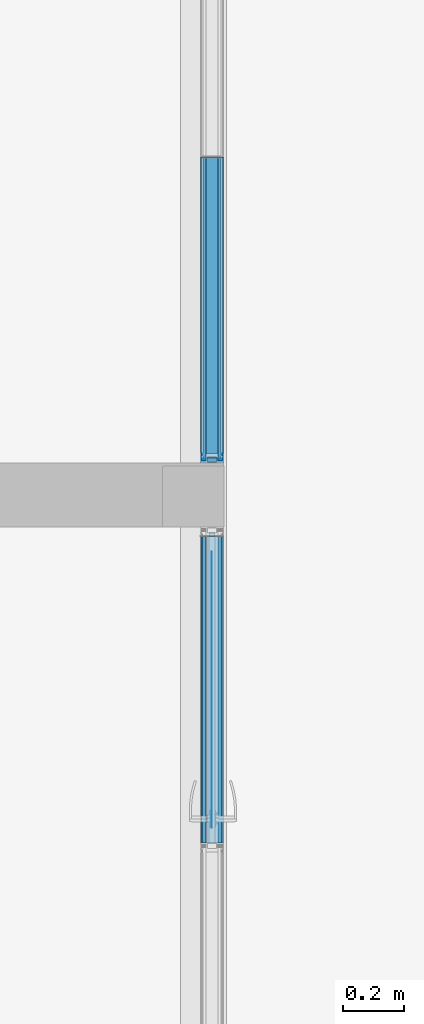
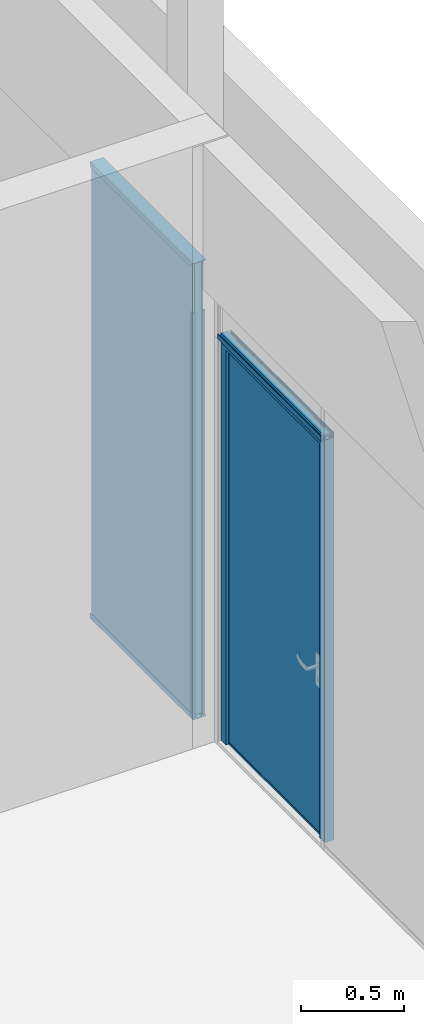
# One storey, part 32 of 65: 9 building element parts, 8 elements without a shape of their own.
"""IFC2X3 building model written with IfcOpenShell, lengths in millimetres."""

import ifcopenshell
import ifcopenshell.guid

model = None  # the IFC model being written
_history = None  # IfcOwnerHistory: only IFC2X3 demands one
_inside = {}  # id of a spatial element -> (the spatial element, [elements in it])
_under = {}  # id of a project, library or spatial element -> (it, [spatial elements below it])
_declared = {}  # id of a project -> (the project, [libraries it declares])
_typed = {}  # id of a type object -> (the type object, [elements of that type])
_made_of = {}  # id of a material, layer set ... -> (it, [elements and type objects made of it])


def new_model(schema):
    """Start an empty IFC model of exactly this schema.

    Asked for "IFC4X3", IfcOpenShell would pick the latest addendum, in which some entities
    have other attributes; the version numbers below select the first issue.
    IFC2X3 requires an IfcOwnerHistory on every rooted entity: one is made here for all.
    """
    global model, _history
    if schema == "IFC4X3":
        model = ifcopenshell.file(schema_version=(4, 3, 0, 0))
    else:
        model = ifcopenshell.file(schema=schema)
    _inside.clear()
    _under.clear()
    _declared.clear()
    _typed.clear()
    _made_of.clear()
    _history = None
    if model.schema == "IFC2X3":
        org = make("IfcOrganization", Name="unknown")
        user = make(
            "IfcPersonAndOrganization",
            ThePerson=make("IfcPerson", FamilyName="unknown"),
            TheOrganization=org,
        )
        app = make(
            "IfcApplication",
            ApplicationDeveloper=org,
            Version="unknown",
            ApplicationFullName="unknown",
            ApplicationIdentifier="unknown",
        )
        _history = make(
            "IfcOwnerHistory",
            OwningUser=user,
            OwningApplication=app,
            ChangeAction="ADDED",
            CreationDate=0,
        )
    return model


def make(cls, **values):
    """One entity of the class cls with the attributes given. An attribute that is None is left unset."""
    return model.create_entity(
        cls, **{name: value for name, value in values.items() if value is not None}
    )


def entity(cls, *values):
    """Any entity or typed value of the class cls, its attributes in the order of the schema. None: left unset."""
    e = model.create_entity(cls)
    for i, value in enumerate(values):
        if value is not None:
            e[i] = value
    return e


def rooted(cls, **values):
    """An entity with a GlobalId (a new one), such as an element, a storey or a relation."""
    return make(cls, GlobalId=ifcopenshell.guid.new(), OwnerHistory=_history, **values)


def si_unit(unit_type, name, prefix=None):
    """IfcSIUnit, for example si_unit("LENGTHUNIT", "METRE", prefix="MILLI")."""
    return make("IfcSIUnit", UnitType=unit_type, Prefix=prefix, Name=name)


def converted_unit(unit_type, name, factor, base, dimensions=None, offset=None):
    """IfcConversionBasedUnit, such as the inch: factor (a typed value) times the base unit."""
    return make(
        "IfcConversionBasedUnit"
        if offset is None
        else "IfcConversionBasedUnitWithOffset",
        ConversionOffset=offset,
        Dimensions=None
        if dimensions is None
        else entity("IfcDimensionalExponents", *dimensions),
        UnitType=unit_type,
        Name=name,
        ConversionFactor=make(
            "IfcMeasureWithUnit", ValueComponent=factor, UnitComponent=base
        ),
    )


def derived_unit(unit_type, elements):
    """IfcDerivedUnit: a product of units, each with its exponent."""
    return make(
        "IfcDerivedUnit",
        Elements=[
            make("IfcDerivedUnitElement", Unit=unit, Exponent=power)
            for unit, power in elements
        ],
        UnitType=unit_type,
    )


def money_unit(currency):
    """IfcMonetaryUnit."""
    return make("IfcMonetaryUnit", Currency=currency)


def assignment(units):
    """IfcUnitAssignment: the units of a project."""
    return None if units is None else make("IfcUnitAssignment", Units=units)


def point(xyz):
    """IfcCartesianPoint."""
    return None if xyz is None else make("IfcCartesianPoint", Coordinates=xyz)


def direction(xyz):
    """IfcDirection."""
    return None if xyz is None else make("IfcDirection", DirectionRatios=xyz)


def frame(location, z_axis=None, x_axis=None):
    """IfcAxis2Placement3D, a coordinate frame: its origin and axes. An axis left out is left unset."""
    return make(
        "IfcAxis2Placement3D",
        Location=point(location),
        Axis=direction(z_axis),
        RefDirection=direction(x_axis),
    )


def origin_with_axes():
    """The frame at (0, 0, 0) with the z axis (0, 0, 1) and the x axis (1, 0, 0) written out."""
    return frame((0.0, 0.0, 0.0), z_axis=(0.0, 0.0, 1.0), x_axis=(1.0, 0.0, 0.0))


def place(relative_to, where):
    """IfcLocalPlacement: puts the frame where relative to a parent placement (None: the world)."""
    return make(
        "IfcLocalPlacement", PlacementRelTo=relative_to, RelativePlacement=where
    )


def context(
    kind, dimensions, precision=None, world=None, true_north=None, identifier=None
):
    """IfcGeometricRepresentationContext, for example the 3D "Model" context."""
    return make(
        "IfcGeometricRepresentationContext",
        ContextIdentifier=identifier,
        ContextType=kind,
        CoordinateSpaceDimension=dimensions,
        Precision=precision,
        WorldCoordinateSystem=world,
        TrueNorth=true_north,
    )


def subcontext(parent, identifier, kind, view, scale=None):
    """IfcGeometricRepresentationSubContext, for example "Body" below "Model"."""
    return make(
        "IfcGeometricRepresentationSubContext",
        ContextIdentifier=identifier,
        ContextType=kind,
        ParentContext=parent,
        TargetScale=scale,
        TargetView=view,
    )


def project(units=None, contexts=None):
    """IfcProject with its units and contexts."""
    return rooted(
        "IfcProject",
        Name="project",
        RepresentationContexts=contexts,
        UnitsInContext=assignment(units),
    )


def spatial(cls, under=None, at=None, **own):
    """A site, building, storey or space (cls), placed at a placement, below another one or the project."""
    s = rooted(cls, ObjectPlacement=at, **own)
    if under is not None:
        _under.setdefault(under.id(), (under, []))[1].append(s)
    return s


def faces_of(points, faces, orient=None, outer=None):
    """IfcFace entities. A face is a list of loops; a loop is a list of indices into points, from 0.

    orient and outer hold one flag for each loop. By default every Orientation is true, the
    first loop of a face is its IfcFaceOuterBound and the others are IfcFaceBound.
    """
    made = []
    for i, loops in enumerate(faces):
        bounds = []
        for j, loop in enumerate(loops):
            is_outer = j == 0 if outer is None else outer[i][j]
            bounds.append(
                make(
                    "IfcFaceOuterBound" if is_outer else "IfcFaceBound",
                    Bound=make("IfcPolyLoop", Polygon=[points[k] for k in loop]),
                    Orientation=True if orient is None else orient[i][j],
                )
            )
        made.append(make("IfcFace", Bounds=bounds))
    return made


def open_shell(faces, orient=None, outer=None):
    """The faces of one IfcOpenShell. surface_model builds it on its shared points."""
    return ("IfcOpenShell", faces, orient, outer)


def faceted_brep(points, faces, orient=None, outer=None, voids=None):
    """IfcFacetedBrep: a solid bounded by flat faces; with voids (closed shells), ...WithVoids."""
    shared = [point(p) for p in points]
    hull = make("IfcClosedShell", CfsFaces=faces_of(shared, faces, orient, outer))
    if voids is None:
        return make("IfcFacetedBrep", Outer=hull)
    return make(
        "IfcFacetedBrepWithVoids",
        Outer=hull,
        Voids=[
            make(cls, CfsFaces=faces_of(shared, fs, o, b)) for cls, fs, o, b in voids
        ],
    )


def surface_model(cls, points, shells):
    """IfcFaceBasedSurfaceModel or IfcShellBasedSurfaceModel (cls): surfaces that need not close."""
    shared = [point(p) for p in points]
    made = [make(c, CfsFaces=faces_of(shared, fs, o, b)) for c, fs, o, b in shells]
    if cls == "IfcFaceBasedSurfaceModel":
        return make(cls, FbsmFaces=made)
    return make(cls, SbsmBoundary=made)


def shape(context_of_items, identifier, shape_type, items):
    """IfcShapeRepresentation: the items that make up one representation, for example the "Body"."""
    return make(
        "IfcShapeRepresentation",
        ContextOfItems=context_of_items,
        RepresentationIdentifier=identifier,
        RepresentationType=shape_type,
        Items=items,
    )


def material(Name=None, Category=None):
    """IfcMaterial."""
    return make("IfcMaterial", Name=Name, Category=Category)


def made_of(thing, what):
    """Note that an element or type object is made of a material, layer set ...; save() writes the relation."""
    if what is not None:
        _made_of.setdefault(what.id(), (what, []))[1].append(thing)
    return thing


def type_object(cls, material=None, **own):
    """A type object (cls), such as IfcWallType, which elements share."""
    return made_of(rooted(cls, **own), material)


def element(
    cls,
    number,
    at=None,
    inside=None,
    cuts=None,
    type_object=None,
    material=None,
    context=None,
    identifier="Body",
    shape_type=None,
    held_by="IfcProductDefinitionShape",
    body=None,
    shapes=None,
    **own,
):
    """One element of the class cls, such as IfcWall. Its Tag is "e" and its number.

    at: its placement. inside: the storey or other place that contains it. cuts: it is an
    opening in that element (IfcRelVoidsElement). A single representation is given by context,
    identifier, shape_type and body (its items); several are given by shapes. held_by: the class
    of the entity that holds the representations. save() writes the other relations.
    """
    e = rooted(cls, Tag="e%d" % number, ObjectPlacement=at, **own)
    if body is not None:
        shapes = [shape(context, identifier, shape_type, body)]
    if shapes is not None:
        e.Representation = make(held_by, Representations=shapes)
    if inside is not None:
        _inside.setdefault(inside.id(), (inside, []))[1].append(e)
    if cuts is not None:
        rooted(
            "IfcRelVoidsElement", RelatingBuildingElement=cuts, RelatedOpeningElement=e
        )
    if type_object is not None:
        _typed.setdefault(type_object.id(), (type_object, []))[1].append(e)
    return made_of(e, material)


def aggregate(whole, parts):
    """IfcRelAggregates: a whole, such as a stair, and the parts it consists of."""
    return rooted("IfcRelAggregates", RelatingObject=whole, RelatedObjects=parts)


def save(model, path):
    """Write the relations noted so far, then the file.

    IfcRelAggregates (storeys below a building ...), IfcRelContainedInSpatialStructure (elements
    in a storey), IfcRelDefinesByType, IfcRelAssociatesMaterial and IfcRelDeclares: one each for
    every whole, place, type object, material and project.
    """
    for whole, parts in _under.values():
        aggregate(whole, parts)
    for where, things in _inside.values():
        rooted(
            "IfcRelContainedInSpatialStructure",
            RelatedElements=things,
            RelatingStructure=where,
        )
    for kind, things in _typed.values():
        rooted("IfcRelDefinesByType", RelatedObjects=things, RelatingType=kind)
    for what, things in _made_of.values():
        rooted("IfcRelAssociatesMaterial", RelatedObjects=things, RelatingMaterial=what)
    for by, libraries in _declared.values():
        rooted("IfcRelDeclares", RelatingContext=by, RelatedDefinitions=libraries)
    model.write(path)


model = new_model("IFC2X3")

# Units and contexts
model_context = context("Model", 3, precision=0.01, world=origin_with_axes(), true_north=direction((0.0, 1.0)))
body_context = subcontext(model_context, "Body", "Model", "MODEL_VIEW")
ifc_project = project(units=[si_unit("LENGTHUNIT", "METRE", prefix="MILLI"), si_unit("AREAUNIT", "SQUARE_METRE"), si_unit("VOLUMEUNIT", "CUBIC_METRE"), converted_unit("PLANEANGLEUNIT", "DEGREE", entity("IfcPlaneAngleMeasure", 0.0174532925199), si_unit("PLANEANGLEUNIT", "RADIAN"), dimensions=[0, 0, 0, 0, 0, 0, 0]), si_unit("SOLIDANGLEUNIT", "STERADIAN"), money_unit("EUR"), converted_unit("TIMEUNIT", "Year", entity("IfcTimeMeasure", 31556926.0), si_unit("TIMEUNIT", "SECOND"), dimensions=[0, 0, 1, 0, 0, 0, 0]), si_unit("MASSUNIT", "GRAM", prefix="KILO"), si_unit("THERMODYNAMICTEMPERATUREUNIT", "DEGREE_CELSIUS"), si_unit("LUMINOUSINTENSITYUNIT", "LUMEN"), si_unit("ENERGYUNIT", "JOULE", prefix="MEGA"), derived_unit("THERMALCONDUCTANCEUNIT", [(si_unit("POWERUNIT", "WATT"), 1), (si_unit("LENGTHUNIT", "METRE"), -1), (si_unit("THERMODYNAMICTEMPERATUREUNIT", "KELVIN"), -1)]), derived_unit("SPECIFICHEATCAPACITYUNIT", [(si_unit("ENERGYUNIT", "JOULE"), 1), (si_unit("MASSUNIT", "GRAM", prefix="KILO"), -1), (si_unit("THERMODYNAMICTEMPERATUREUNIT", "KELVIN"), -1)]), derived_unit("MASSDENSITYUNIT", [(si_unit("MASSUNIT", "GRAM", prefix="KILO"), 1), (si_unit("VOLUMEUNIT", "CUBIC_METRE"), -1)])], contexts=[model_context])

# Site, building, storey
site_placement = place(None, origin_with_axes())
site = spatial("IfcSite", under=ifc_project, at=site_placement, Name="Puškini 31, Narva", CompositionType="ELEMENT")
building_placement = place(site_placement, origin_with_axes())
building = spatial("IfcBuilding", under=site, at=building_placement, Name="Narva Riigigümnaasium", CompositionType="ELEMENT")
storey_placement = place(building_placement, frame((0.0, 0.0, -1320.0), z_axis=(0.0, 0.0, 1.0), x_axis=(1.0, 0.0, 0.0)))
storey = spatial("IfcBuildingStorey", under=building, at=storey_placement, Name="1.korrus -1.32", CompositionType="ELEMENT", Elevation=-1320.0)

# Curtain wall, plate, building element parts, members
curtain_wall_type = type_object("IfcCurtainWallType", Name="Curtain Wall Type", PredefinedType="NOTDEFINED")
curtain_wall_1_placement = place(storey_placement, frame((30362.9999988, 168706.249936, -1.99739158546e-06), z_axis=(0.0, 0.0, 1.0), x_axis=(1.0, 0.0, 0.0)))
curtain_wall_1 = element("IfcCurtainWall", 1, at=curtain_wall_1_placement, inside=storey, type_object=curtain_wall_type, Name="G-SKLF-05")
plate_type = type_object("IfcPlateType", Name="Siseklaasfassaad - Klaas 981 x 285 x 10", PredefinedType="CURTAIN_PANEL")
plate_placement = place(curtain_wall_1_placement, frame((0.0, -997.5, 1700.00003085), z_axis=(0.0, 0.0, 1.0), x_axis=(0.0, -1.0, 0.0)))
plate = element("IfcPlate", 2, at=plate_placement, type_object=plate_type, Name="G-SKLF-05-klaas", ObjectType="CURTAIN_PANEL")
ifc_material_1 = material(Name="VKR-05_Klaas")
building_element_part_1_placement = place(plate_placement, origin_with_axes())
building_element_part_1 = element("IfcBuildingElementPart", 3, at=building_element_part_1_placement, material=ifc_material_1, Name="VKR-05_Klaas", context=body_context, shape_type="Brep", body=[
    faceted_brep([(-497.250006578, 29.0, 985.000045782), (-497.250006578, 20.0, 985.000045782), (483.749986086, 20.0, 985.000045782), (483.749986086, 29.0, 985.000045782), (-497.250006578, 29.0, -1685.00001693), (-497.250006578, 20.0, -1685.00001693), (483.749986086, 20.0, -1685.00001693), (483.749986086, 29.0, -1685.00001693)], [[[0, 1, 2, 3]], [[4, 5, 1, 0]], [[1, 5, 6, 2]], [[3, 2, 6, 7]], [[0, 3, 7, 4]], [[7, 6, 5, 4]]]),
    faceted_brep([(-497.250006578, -20.0, 985.000045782), (-497.250006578, -29.0, 985.000045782), (483.749986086, -29.0, 985.000045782), (483.749986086, -20.0, 985.000045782), (-497.250006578, -20.0, -1685.00001693), (-497.250006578, -29.0, -1685.00001693), (483.749986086, -29.0, -1685.00001693), (483.749986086, -20.0, -1685.00001693)], [[[0, 1, 2, 3]], [[4, 5, 1, 0]], [[1, 5, 6, 2]], [[3, 2, 6, 7]], [[0, 3, 7, 4]], [[7, 6, 5, 4]]]),
])
ifc_material_2 = material(Name="VKR-06_Õhkvahe")
building_element_part_2_placement = place(plate_placement, origin_with_axes())
building_element_part_2 = element("IfcBuildingElementPart", 4, at=building_element_part_2_placement, material=ifc_material_2, Name="VKR-06_Õhkvahe", context=body_context, shape_type="Brep", body=[
    faceted_brep([(-497.250006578, 20.0, 985.000045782), (-497.250006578, -20.0, 985.000045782), (483.749986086, -20.0, 985.000045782), (483.749986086, 20.0, 985.000045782), (-497.250006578, 20.0, -1685.00001693), (-497.250006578, -20.0, -1685.00001693), (483.749986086, -20.0, -1685.00001693), (483.749986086, 20.0, -1685.00001693)], [[[0, 1, 2, 3]], [[4, 5, 1, 0]], [[1, 5, 6, 2]], [[3, 2, 6, 7]], [[0, 3, 7, 4]], [[7, 6, 5, 4]]]),
])
aggregate(plate, [building_element_part_1, building_element_part_2])
member_type = type_object("IfcMemberType", Name="Boundary Frame 30 x 37", PredefinedType="MULLION")
member_1_placement = place(curtain_wall_1_placement, frame((0.0, -1496.25, 2700.00009054), z_axis=(0.0, 1.0, 0.0), x_axis=(0.0, 0.0, 1.0)))
member_1 = element("IfcMember", 5, at=member_1_placement, type_object=member_type, Name="G-SKLF-14-raam", ObjectType="MULLION")
ifc_material_3 = material(Name="Teras RAL7012")
building_element_part_3_placement = place(member_1_placement, origin_with_axes())
building_element_part_3 = element("IfcBuildingElementPart", 6, at=building_element_part_3_placement, material=ifc_material_3, Name="Teras RAL7012", context=body_context, shape_type="Brep", body=[
    faceted_brep([(-29.5999996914, 17.0000000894, 29.5999996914), (-29.5999996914, 17.0000000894, 996.019987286), (0.0, 17.0000000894, 997.5), (0.0, 17.0000000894, 0.0), (-29.5999996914, -17.0000000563, 29.5999996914), (-29.5999996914, -17.0000000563, 996.019987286), (0.0, -17.0000000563, 997.5), (-1.9999999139, -15.0000001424, 997.399999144), (-18.7999996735, -15.0000001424, 996.559991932), (-18.7999996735, 15.0000001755, 996.559991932), (-1.9999999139, 15.0000001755, 997.399999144), (0.0, -17.0000000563, 0.0), (-1.9999999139, -15.0000001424, 1.99999991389), (-1.9999999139, 15.0000001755, 1.99999991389), (-18.7999996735, 15.0000001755, 18.7999996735), (-18.7999996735, -15.0000001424, 18.7999996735)], [[[0, 1, 2, 3]], [[4, 5, 1, 0]], [[2, 1, 5, 6], [7, 8, 9, 10]], [[3, 2, 6, 11]], [[3, 11, 4, 0], [12, 13, 14, 15]], [[11, 6, 5, 4]], [[15, 8, 7, 12]], [[14, 9, 8, 15]], [[13, 10, 9, 14]], [[12, 7, 10, 13]]]),
    faceted_brep([(-29.5999996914, -17.0000000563, 29.5999996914), (-29.5999996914, -17.0000000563, 996.019987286), (0.0, -17.0, 997.5), (0.0, -17.0, 0.0), (-30.0000193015, -17.0, 30.0000193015), (-30.0000193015, -17.0, 995.999986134), (-30.0000193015, -20.0, 995.999986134), (-13.8499999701, -20.000000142, 996.807494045), (-7.49999999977, -20.0, 997.124996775), (-7.49999999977, -34.0161444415, 997.124996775), (-13.8499999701, -34.0161444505, 996.807494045), (-24.987414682, -34.0161444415, 996.25061852), (-28.5126239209, -34.0161444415, 996.074356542), (-30.0000193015, -34.0161444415, 995.999986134), (-30.0000193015, -37.0, 995.999986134), (0.0, -37.0, 997.5), (0.0, -37.0, 0.0), (-30.0000193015, -37.0, 30.0000193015), (-30.0000193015, -34.0161444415, 30.0000193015), (-28.5126239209, -34.0161444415, 28.5126239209), (-24.987414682, -34.0161444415, 24.987414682), (-13.8499999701, -34.0161444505, 13.8499999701), (-7.49999999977, -34.0161444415, 7.49999999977), (-7.49999999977, -20.0, 7.49999999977), (-13.8499999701, -20.000000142, 13.8499999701), (-30.0000193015, -20.0, 30.0000193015)], [[[0, 1, 2, 3]], [[4, 5, 1, 0]], [[2, 1, 5, 6, 7, 8, 9, 10, 11, 12, 13, 14, 15]], [[3, 2, 15, 16]], [[3, 16, 17, 18, 19, 20, 21, 22, 23, 24, 25, 4, 0]], [[25, 6, 5, 4]], [[24, 7, 6, 25]], [[23, 8, 7, 24]], [[22, 9, 8, 23]], [[21, 10, 9, 22]], [[20, 11, 10, 21]], [[19, 12, 11, 20]], [[18, 13, 12, 19]], [[17, 14, 13, 18]], [[16, 15, 14, 17]]]),
    faceted_brep([(0.0, 37.0, 0.0), (0.0, 37.0, 997.5), (0.0, 17.0, 997.5), (0.0, 17.0, 0.0), (-30.0000193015, 37.0, 30.0000193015), (-30.0000193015, 37.0, 995.999986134), (-30.0000193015, 34.0161444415, 995.999986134), (-28.5126239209, 34.0161444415, 996.074356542), (-24.987414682, 34.0161444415, 996.25061852), (-13.8499999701, 34.0161445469, 996.807494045), (-7.49999999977, 34.0161444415, 997.124996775), (-7.49999999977, 20.0, 997.124996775), (-13.8499999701, 19.9999997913, 996.807494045), (-30.0000193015, 20.0, 995.999986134), (-30.0000193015, 17.0, 995.999986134), (-29.5999996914, 17.0000000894, 996.019987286), (-29.5999996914, 17.0000000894, 29.5999996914), (-30.0000193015, 17.0, 30.0000193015), (-30.0000193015, 20.0, 30.0000193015), (-13.8499999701, 19.9999997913, 13.8499999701), (-7.49999999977, 20.0, 7.49999999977), (-7.49999999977, 34.0161444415, 7.49999999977), (-13.8499999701, 34.0161445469, 13.8499999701), (-24.987414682, 34.0161444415, 24.987414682), (-28.5126239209, 34.0161444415, 28.5126239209), (-30.0000193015, 34.0161444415, 30.0000193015)], [[[0, 1, 2, 3]], [[4, 5, 1, 0]], [[2, 1, 5, 6, 7, 8, 9, 10, 11, 12, 13, 14, 15]], [[3, 2, 15, 16]], [[3, 16, 17, 18, 19, 20, 21, 22, 23, 24, 25, 4, 0]], [[25, 6, 5, 4]], [[24, 7, 6, 25]], [[23, 8, 7, 24]], [[22, 9, 8, 23]], [[21, 10, 9, 22]], [[20, 11, 10, 21]], [[19, 12, 11, 20]], [[18, 13, 12, 19]], [[17, 14, 13, 18]], [[16, 15, 14, 17]]]),
])
aggregate(member_1, [building_element_part_3])
member_2_placement = place(curtain_wall_1_placement, frame((0.0, -1496.25, 0.0), z_axis=(0.0, 1.0, 0.0), x_axis=(0.0, 0.0, 1.0)))
member_2 = element("IfcMember", 7, at=member_2_placement, type_object=member_type, Name="G-SKLF-05-raam", ObjectType="MULLION")
building_element_part_4_placement = place(member_2_placement, origin_with_axes())
building_element_part_4 = element("IfcBuildingElementPart", 8, at=building_element_part_4_placement, material=ifc_material_3, Name="Teras RAL7012", context=body_context, shape_type="Brep", body=[
    faceted_brep([(29.5999996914, 17.0000000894, 29.5999996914), (0.0, 17.0000000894, 0.0), (0.0, 17.0000000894, 997.5), (29.5999996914, 17.0000000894, 996.019987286), (29.5999996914, -17.0000000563, 29.5999996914), (0.0, -17.0000000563, 0.0), (1.9999999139, -15.0000001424, 1.99999991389), (18.7999996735, -15.0000001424, 18.7999996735), (18.7999996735, 15.0000001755, 18.7999996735), (1.9999999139, 15.0000001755, 1.99999991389), (0.0, -17.0000000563, 997.5), (29.5999996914, -17.0000000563, 996.019987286), (1.9999999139, -15.0000001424, 997.399999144), (1.9999999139, 15.0000001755, 997.399999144), (18.7999996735, 15.0000001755, 996.559991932), (18.7999996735, -15.0000001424, 996.559991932)], [[[0, 1, 2, 3]], [[1, 0, 4, 5], [6, 7, 8, 9]], [[1, 5, 10, 2]], [[2, 10, 11, 3], [12, 13, 14, 15]], [[4, 0, 3, 11]], [[5, 4, 11, 10]], [[7, 6, 12, 15]], [[8, 7, 15, 14]], [[9, 8, 14, 13]], [[6, 9, 13, 12]]]),
    faceted_brep([(29.5999996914, -17.0000000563, 29.5999996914), (0.0, -17.0, 0.0), (0.0, -17.0, 997.5), (29.5999996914, -17.0000000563, 996.019987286), (30.0000193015, -17.0, 30.0000193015), (30.0000193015, -20.0, 30.0000193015), (13.8499999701, -20.000000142, 13.8499999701), (7.49999999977, -20.0, 7.49999999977), (7.49999999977, -34.0161444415, 7.49999999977), (13.8499999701, -34.0161444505, 13.8499999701), (24.987414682, -34.0161444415, 24.987414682), (28.5126239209, -34.0161444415, 28.5126239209), (30.0000193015, -34.0161444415, 30.0000193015), (30.0000193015, -37.0, 30.0000193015), (0.0, -37.0, 0.0), (0.0, -37.0, 997.5), (30.0000193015, -37.0, 995.999986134), (30.0000193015, -34.0161444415, 995.999986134), (28.5126239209, -34.0161444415, 996.074356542), (24.987414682, -34.0161444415, 996.25061852), (13.8499999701, -34.0161444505, 996.807494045), (7.49999999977, -34.0161444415, 997.124996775), (7.49999999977, -20.0, 997.124996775), (13.8499999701, -20.000000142, 996.807494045), (30.0000193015, -20.0, 995.999986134), (30.0000193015, -17.0, 995.999986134)], [[[0, 1, 2, 3]], [[1, 0, 4, 5, 6, 7, 8, 9, 10, 11, 12, 13, 14]], [[1, 14, 15, 2]], [[2, 15, 16, 17, 18, 19, 20, 21, 22, 23, 24, 25, 3]], [[4, 0, 3, 25]], [[5, 4, 25, 24]], [[6, 5, 24, 23]], [[7, 6, 23, 22]], [[8, 7, 22, 21]], [[9, 8, 21, 20]], [[10, 9, 20, 19]], [[11, 10, 19, 18]], [[12, 11, 18, 17]], [[13, 12, 17, 16]], [[14, 13, 16, 15]]]),
    faceted_brep([(0.0, 37.0, 0.0), (0.0, 17.0, 0.0), (0.0, 17.0, 997.5), (0.0, 37.0, 997.5), (30.0000193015, 37.0, 30.0000193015), (30.0000193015, 34.0161444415, 30.0000193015), (28.5126239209, 34.0161444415, 28.5126239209), (24.987414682, 34.0161444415, 24.987414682), (13.8499999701, 34.0161445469, 13.8499999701), (7.49999999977, 34.0161444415, 7.49999999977), (7.49999999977, 20.0, 7.49999999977), (13.8499999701, 19.9999997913, 13.8499999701), (30.0000193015, 20.0, 30.0000193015), (30.0000193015, 17.0, 30.0000193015), (29.5999996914, 17.0000000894, 29.5999996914), (29.5999996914, 17.0000000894, 996.019987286), (30.0000193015, 17.0, 995.999986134), (30.0000193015, 20.0, 995.999986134), (13.8499999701, 19.9999997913, 996.807494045), (7.49999999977, 20.0, 997.124996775), (7.49999999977, 34.0161444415, 997.124996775), (13.8499999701, 34.0161445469, 996.807494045), (24.987414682, 34.0161444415, 996.25061852), (28.5126239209, 34.0161444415, 996.074356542), (30.0000193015, 34.0161444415, 995.999986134), (30.0000193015, 37.0, 995.999986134)], [[[0, 1, 2, 3]], [[1, 0, 4, 5, 6, 7, 8, 9, 10, 11, 12, 13, 14]], [[1, 14, 15, 2]], [[2, 15, 16, 17, 18, 19, 20, 21, 22, 23, 24, 25, 3]], [[4, 0, 3, 25]], [[5, 4, 25, 24]], [[6, 5, 24, 23]], [[7, 6, 23, 22]], [[8, 7, 22, 21]], [[9, 8, 21, 20]], [[10, 9, 20, 19]], [[11, 10, 19, 18]], [[12, 11, 18, 17]], [[13, 12, 17, 16]], [[14, 13, 16, 15]]]),
])
aggregate(member_2, [building_element_part_4])
member_3_placement = place(curtain_wall_1_placement, frame((0.0, -1496.25, 0.0), z_axis=(0.0, 0.0, 1.0), x_axis=(0.0, -1.0, 0.0)))
member_3 = element("IfcMember", 9, at=member_3_placement, type_object=member_type, Name="G-SKLF-16-raam", ObjectType="MULLION")
aggregate(curtain_wall_1, [member_1, member_2, member_3, plate])
ifc_material_4 = material(Name="Klaasvill")
building_element_part_5_placement = place(member_3_placement, origin_with_axes())
building_element_part_5 = element("IfcBuildingElementPart", 10, at=building_element_part_5_placement, material=ifc_material_4, Name="Klaasvill", context=body_context, shape_type="Brep", body=[
    faceted_brep([(-13.8499999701, -20.000000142, 13.8499999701), (-13.8499999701, -20.000000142, 2400.000002), (-7.49999990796, -20.000000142, 2400.000002), (-7.49999990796, -20.000000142, 7.49999990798), (-13.8499999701, -34.0161444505, 13.8499999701), (-13.8499999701, -34.0161444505, 2400.000002), (-7.49999990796, -34.0161444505, 2400.000002), (-7.49999990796, -34.0161444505, 7.49999990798)], [[[0, 1, 2, 3]], [[4, 5, 1, 0]], [[2, 1, 5, 6]], [[3, 2, 6, 7]], [[3, 7, 4, 0]], [[7, 6, 5, 4]]]),
    faceted_brep([(-25.004489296, -32.0307503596, 25.004489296), (-25.004489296, -32.0307503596, 2400.000002), (-24.987414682, -34.0161444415, 2400.000002), (-24.987414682, -34.0161444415, 24.987414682), (-25.742237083, -31.2930025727, 25.742237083), (-25.742237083, -31.2930025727, 2400.000002), (-26.7500193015, -31.0229681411, 2400.000002), (-27.75780152, -31.2930025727, 2400.000002), (-28.4955493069, -32.0307503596, 2400.000002), (-28.7655837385, -33.0385325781, 2400.000002), (-28.5126239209, -34.0161444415, 2400.000002), (-28.5126239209, -34.0161444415, 28.5126239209), (-28.7655837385, -33.0385325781, 28.7655837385), (-28.4955493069, -32.0307503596, 28.4955493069), (-27.75780152, -31.2930025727, 27.75780152), (-26.7500193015, -31.0229681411, 26.7500193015)], [[[0, 1, 2, 3]], [[4, 5, 1, 0]], [[2, 1, 5, 6, 7, 8, 9, 10]], [[3, 2, 10, 11]], [[3, 11, 12, 13, 14, 15, 4, 0]], [[15, 6, 5, 4]], [[14, 7, 6, 15]], [[13, 8, 7, 14]], [[12, 9, 8, 13]], [[11, 10, 9, 12]]]),
    faceted_brep([(-7.49999990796, 34.0161445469, 7.49999990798), (-7.49999990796, 34.0161445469, 2400.000002), (-7.49999990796, 19.9999997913, 2400.000002), (-7.49999990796, 19.9999997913, 7.49999990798), (-13.8499999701, 34.0161445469, 13.8499999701), (-13.8499999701, 34.0161445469, 2400.000002), (-13.8499999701, 19.9999997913, 2400.000002), (-13.8499999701, 19.9999997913, 13.8499999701)], [[[0, 1, 2, 3]], [[4, 5, 1, 0]], [[2, 1, 5, 6]], [[3, 2, 6, 7]], [[3, 7, 4, 0]], [[7, 6, 5, 4]]]),
    faceted_brep([(-24.987414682, 34.0161444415, 24.987414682), (-24.987414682, 34.0161444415, 2400.000002), (-25.004489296, 32.0307503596, 2400.000002), (-25.004489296, 32.0307503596, 25.004489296), (-28.5126239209, 34.0161444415, 28.5126239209), (-28.5126239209, 34.0161444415, 2400.000002), (-28.7655837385, 33.0385325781, 2400.000002), (-28.4955493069, 32.0307503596, 2400.000002), (-27.75780152, 31.2930025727, 2400.000002), (-26.7500193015, 31.0229681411, 2400.000002), (-25.742237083, 31.2930025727, 2400.000002), (-25.742237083, 31.2930025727, 25.742237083), (-26.7500193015, 31.0229681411, 26.7500193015), (-27.75780152, 31.2930025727, 27.75780152), (-28.4955493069, 32.0307503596, 28.4955493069), (-28.7655837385, 33.0385325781, 28.7655837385)], [[[0, 1, 2, 3]], [[4, 5, 1, 0]], [[2, 1, 5, 6, 7, 8, 9, 10]], [[3, 2, 10, 11]], [[3, 11, 12, 13, 14, 15, 4, 0]], [[15, 6, 5, 4]], [[14, 7, 6, 15]], [[13, 8, 7, 14]], [[12, 9, 8, 13]], [[11, 10, 9, 12]]]),
])
aggregate(member_3, [building_element_part_5])

# Curtain wall, door, building element parts, proxy
curtain_wall_2_placement = place(storey_placement, frame((30362.9999988, 164066.428557, -5.96047033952e-06), z_axis=(0.0, 0.0, 1.0), x_axis=(1.0, 0.0, 0.0)))
curtain_wall_2 = element("IfcCurtainWall", 11, at=curtain_wall_2_placement, inside=storey, type_object=curtain_wall_type, Name="G-SKLF-04")
door_style = type_object("IfcDoorStyle", Name="985 x 2365 x 20", ConstructionType="NOTDEFINED", OperationType="NOTDEFINED", ParameterTakesPrecedence=False, Sizeable=False)
door_placement = place(curtain_wall_2_placement, frame((0.0, 2580.10476415, 1200.00000298), z_axis=(0.0, 0.0, 1.0), x_axis=(0.0, -1.0, 0.0)))
door = element("IfcDoor", 12, at=door_placement, type_object=door_style, Name="G-SKLF-04-U1", ObjectType="DOOR")
ifc_material_5 = material(Name="Teras - Roostevaba")
building_element_part_6_placement = place(door_placement, origin_with_axes())
building_element_part_6 = element("IfcBuildingElementPart", 13, at=building_element_part_6_placement, material=ifc_material_5, Name="Teras - Roostevaba", context=body_context, shape_type="Brep", body=[
    faceted_brep([(-323.466630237, -17.0, -1180.00000293), (-323.466630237, -17.0, 1200.00000298), (-323.466630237, -3.0, 1200.00000298), (-323.466630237, -3.0, -1180.00000293), (-277.466630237, -17.0, -1180.00000293), (-277.466630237, -17.0, 1154.00000298), (-277.466630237, -3.0, 1154.00000298), (-277.466630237, -3.0, -1180.00000293)], [[[0, 1, 2, 3]], [[0, 4, 5, 1]], [[1, 5, 6, 2]], [[3, 2, 6, 7]], [[4, 0, 3, 7]], [[5, 4, 7, 6]]]),
    faceted_brep([(676.733322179, -17.0, 1200.00000298), (630.733322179, -17.0, 1154.00000298), (630.733322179, -3.0, 1154.00000298), (676.733322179, -3.0, 1200.00000298), (-323.466630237, -17.0, 1200.00000298), (-277.466630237, -17.0, 1154.00000298), (-277.466630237, -3.0, 1154.00000298), (-323.466630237, -3.0, 1200.00000298)], [[[0, 1, 2, 3]], [[0, 4, 5, 1]], [[1, 5, 6, 2]], [[3, 2, 6, 7]], [[4, 0, 3, 7]], [[5, 4, 7, 6]]]),
    faceted_brep([(676.733322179, -17.0, -1180.00000293), (630.733322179, -17.0, -1180.00000293), (630.733322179, -3.0, -1180.00000293), (676.733322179, -3.0, -1180.00000293), (676.733322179, -17.0, 1200.00000298), (630.733322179, -17.0, 1154.00000298), (630.733322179, -3.0, 1154.00000298), (676.733322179, -3.0, 1200.00000298)], [[[0, 1, 2, 3]], [[0, 4, 5, 1]], [[1, 5, 6, 2]], [[3, 2, 6, 7]], [[4, 0, 3, 7]], [[5, 4, 7, 6]]]),
    faceted_brep([(-323.466630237, -3.0, -1180.00000293), (-323.466630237, -3.0, 1200.00000298), (-323.466630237, 37.0, 1200.00000298), (-323.466630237, 37.0, -1180.00000293), (-285.466630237, -3.0, -1180.00000293), (-285.466630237, -3.0, 1162.00000298), (-285.466630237, 37.0, 1162.00000298), (-285.466630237, 37.0, -1180.00000293)], [[[0, 1, 2, 3]], [[0, 4, 5, 1]], [[1, 5, 6, 2]], [[3, 2, 6, 7]], [[4, 0, 3, 7]], [[5, 4, 7, 6]]]),
    faceted_brep([(676.733322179, -3.0, 1200.00000298), (638.733322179, -3.0, 1162.00000298), (638.733322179, 37.0, 1162.00000298), (676.733322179, 37.0, 1200.00000298), (-323.466630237, -3.0, 1200.00000298), (-285.466630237, -3.0, 1162.00000298), (-285.466630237, 37.0, 1162.00000298), (-323.466630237, 37.0, 1200.00000298)], [[[0, 1, 2, 3]], [[0, 4, 5, 1]], [[1, 5, 6, 2]], [[3, 2, 6, 7]], [[4, 0, 3, 7]], [[5, 4, 7, 6]]]),
    faceted_brep([(676.733322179, -3.0, -1180.00000293), (638.733322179, -3.0, -1180.00000293), (638.733322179, 37.0, -1180.00000293), (676.733322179, 37.0, -1180.00000293), (676.733322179, -3.0, 1200.00000298), (638.733322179, -3.0, 1162.00000298), (638.733322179, 37.0, 1162.00000298), (676.733322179, 37.0, 1200.00000298)], [[[0, 1, 2, 3]], [[0, 4, 5, 1]], [[1, 5, 6, 2]], [[3, 2, 6, 7]], [[4, 0, 3, 7]], [[5, 4, 7, 6]]]),
    faceted_brep([(-338.466630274, -10.0, -1180.00000293), (-338.466630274, -10.0, 1185.00000294), (-338.466630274, 10.0, 1185.00000294), (-338.466630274, 10.0, -1180.00000293), (-323.466630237, -10.0, -1180.00000293), (-323.466630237, -10.0, 1200.00000298), (-323.466630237, 10.0, 1200.00000298), (-323.466630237, 10.0, -1180.00000293)], [[[0, 1, 2, 3]], [[0, 4, 5, 1]], [[1, 5, 6, 2]], [[3, 2, 6, 7]], [[4, 0, 3, 7]], [[5, 4, 7, 6]]]),
    faceted_brep([(-323.466630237, -10.0, 1200.00000298), (676.733322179, -10.0, 1200.00000298), (676.733322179, 10.0, 1200.00000298), (-323.466630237, 10.0, 1200.00000298), (-338.466630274, -10.0, 1185.00000294), (661.733322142, -10.0, 1185.00000294), (661.733322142, 10.0, 1185.00000294), (-338.466630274, 10.0, 1185.00000294)], [[[0, 1, 2, 3]], [[0, 4, 5, 1]], [[1, 5, 6, 2]], [[3, 2, 6, 7]], [[4, 0, 3, 7]], [[5, 4, 7, 6]]]),
    faceted_brep([(676.733322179, -10.0, 1200.00000298), (676.733322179, -10.0, -1180.00000293), (676.733322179, 10.0, -1180.00000293), (676.733322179, 10.0, 1200.00000298), (661.733322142, -10.0, 1185.00000294), (661.733322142, -10.0, -1180.00000293), (661.733322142, 10.0, -1180.00000293), (661.733322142, 10.0, 1185.00000294)], [[[0, 1, 2, 3]], [[0, 4, 5, 1]], [[1, 5, 6, 2]], [[3, 2, 6, 7]], [[4, 0, 3, 7]], [[5, 4, 7, 6]]]),
    faceted_brep([(626.733322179, -3.0, -1168.00000293), (626.733322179, -3.0, 1150.00000298), (626.733322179, 9.0, 1150.00000298), (626.733322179, 9.0, -1168.00000293), (638.733322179, -3.0, -1180.00000293), (638.733322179, -3.0, 1162.00000298), (638.733322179, 9.0, 1162.00000298), (638.733322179, 9.0, -1180.00000293)], [[[0, 1, 2, 3]], [[0, 4, 5, 1]], [[1, 5, 6, 2]], [[3, 2, 6, 7]], [[4, 0, 3, 7]], [[5, 4, 7, 6]]]),
    faceted_brep([(-285.466630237, -3.0, -1180.00000293), (-285.466630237, -3.0, 1162.00000298), (-285.466630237, 9.0, 1162.00000298), (-285.466630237, 9.0, -1180.00000293), (-273.466630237, -3.0, -1168.00000293), (-273.466630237, -3.0, 1150.00000298), (-273.466630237, 9.0, 1150.00000298), (-273.466630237, 9.0, -1168.00000293)], [[[0, 1, 2, 3]], [[0, 4, 5, 1]], [[1, 5, 6, 2]], [[3, 2, 6, 7]], [[4, 0, 3, 7]], [[5, 4, 7, 6]]]),
    faceted_brep([(-285.466630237, -3.0, -1180.00000293), (-273.466630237, -3.0, -1168.00000293), (-273.466630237, 9.0, -1168.00000293), (-285.466630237, 9.0, -1180.00000293), (638.733322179, -3.0, -1180.00000293), (626.733322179, -3.0, -1168.00000293), (626.733322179, 9.0, -1168.00000293), (638.733322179, 9.0, -1180.00000293)], [[[0, 1, 2, 3]], [[0, 4, 5, 1]], [[1, 5, 6, 2]], [[3, 2, 6, 7]], [[4, 0, 3, 7]], [[5, 4, 7, 6]]]),
    faceted_brep([(638.733322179, -3.0, 1162.00000298), (626.733322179, -3.0, 1150.00000298), (626.733322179, 9.0, 1150.00000298), (638.733322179, 9.0, 1162.00000298), (-285.466630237, -3.0, 1162.00000298), (-273.466630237, -3.0, 1150.00000298), (-273.466630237, 9.0, 1150.00000298), (-285.466630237, 9.0, 1162.00000298)], [[[0, 1, 2, 3]], [[0, 4, 5, 1]], [[1, 5, 6, 2]], [[3, 2, 6, 7]], [[4, 0, 3, 7]], [[5, 4, 7, 6]]]),
])
building_element_part_7_placement = place(door_placement, origin_with_axes())
building_element_part_7 = element("IfcBuildingElementPart", 14, at=building_element_part_7_placement, material=ifc_material_1, Name="VKR-05_Klaas", context=body_context, shape_type="SurfaceModel", body=[
    surface_model("IfcShellBasedSurfaceModel", [(626.733322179, -0.999999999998, -1168.00000293), (626.733322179, -0.999999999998, 1150.00000298), (-273.466630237, -0.999999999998, 1150.00000298), (-273.466630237, -0.999999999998, -1168.00000293)], [open_shell([[[0, 1, 2, 3]]])]),
])
aggregate(door, [building_element_part_6, building_element_part_7])
building_element_proxy_type = type_object("IfcBuildingElementProxyType", Name="30 x -96", PredefinedType="NOTDEFINED")
proxy_placement = place(curtain_wall_2_placement, frame((0.0, 1903.37144197, 2400.00000596), z_axis=(0.0, 1.0, 0.0), x_axis=(0.0, 0.0, 1.0)))
proxy = element("IfcBuildingElementProxy", 15, at=proxy_placement, type_object=building_element_proxy_type, Name="G-SKLF-04-raam")
aggregate(curtain_wall_2, [door, proxy])
building_element_part_8_placement = place(proxy_placement, origin_with_axes())
building_element_part_8 = element("IfcBuildingElementPart", 16, at=building_element_part_8_placement, material=ifc_material_4, Name="Klaasvill", context=body_context, shape_type="Brep", body=[
    faceted_brep([(7.49999990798, 20.000000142, 0.0), (13.8499999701, 20.000000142, 0.0), (13.8499999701, 20.000000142, 1000.0), (7.49999990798, 20.000000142, 1000.0), (7.49999990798, 34.0161444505, 0.0), (13.8499999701, 34.0161444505, 0.0), (13.8499999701, 34.0161444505, 1000.0), (7.49999990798, 34.0161444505, 1000.0)], [[[0, 1, 2, 3]], [[0, 4, 5, 1]], [[1, 5, 6, 2]], [[3, 2, 6, 7]], [[4, 0, 3, 7]], [[5, 4, 7, 6]]]),
    faceted_brep([(24.987414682, 34.0161444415, 0.0), (25.004489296, 32.0307503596, 0.0), (25.004489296, 32.0307503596, 1000.0), (24.987414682, 34.0161444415, 1000.0), (28.5126239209, 34.0161444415, 0.0), (28.7655837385, 33.0385325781, 0.0), (28.4955493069, 32.0307503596, 0.0), (27.75780152, 31.2930025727, 0.0), (26.7500193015, 31.0229681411, 0.0), (25.742237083, 31.2930025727, 0.0), (25.742237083, 31.2930025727, 1000.0), (26.7500193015, 31.0229681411, 1000.0), (27.75780152, 31.2930025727, 1000.0), (28.4955493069, 32.0307503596, 1000.0), (28.7655837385, 33.0385325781, 1000.0), (28.5126239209, 34.0161444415, 1000.0)], [[[0, 1, 2, 3]], [[0, 4, 5, 6, 7, 8, 9, 1]], [[1, 9, 10, 2]], [[3, 2, 10, 11, 12, 13, 14, 15]], [[4, 0, 3, 15]], [[5, 4, 15, 14]], [[6, 5, 14, 13]], [[7, 6, 13, 12]], [[8, 7, 12, 11]], [[9, 8, 11, 10]]]),
    faceted_brep([(7.49999990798, -19.9999997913, 0.0), (7.49999990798, -34.0161445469, 0.0), (7.49999990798, -34.0161445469, 1000.0), (7.49999990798, -19.9999997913, 1000.0), (13.8499999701, -19.9999997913, 0.0), (13.8499999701, -34.0161445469, 0.0), (13.8499999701, -34.0161445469, 1000.0), (13.8499999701, -19.9999997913, 1000.0)], [[[0, 1, 2, 3]], [[0, 4, 5, 1]], [[1, 5, 6, 2]], [[3, 2, 6, 7]], [[4, 0, 3, 7]], [[5, 4, 7, 6]]]),
    faceted_brep([(25.004489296, -32.0307503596, 0.0), (24.987414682, -34.0161444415, 0.0), (24.987414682, -34.0161444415, 1000.0), (25.004489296, -32.0307503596, 1000.0), (25.742237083, -31.2930025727, 0.0), (26.7500193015, -31.0229681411, 0.0), (27.75780152, -31.2930025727, 0.0), (28.4955493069, -32.0307503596, 0.0), (28.7655837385, -33.0385325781, 0.0), (28.5126239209, -34.0161444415, 0.0), (28.5126239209, -34.0161444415, 1000.0), (28.7655837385, -33.0385325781, 1000.0), (28.4955493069, -32.0307503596, 1000.0), (27.75780152, -31.2930025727, 1000.0), (26.7500193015, -31.0229681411, 1000.0), (25.742237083, -31.2930025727, 1000.0)], [[[0, 1, 2, 3]], [[0, 4, 5, 6, 7, 8, 9, 1]], [[1, 9, 10, 2]], [[3, 2, 10, 11, 12, 13, 14, 15]], [[4, 0, 3, 15]], [[5, 4, 15, 14]], [[6, 5, 14, 13]], [[7, 6, 13, 12]], [[8, 7, 12, 11]], [[9, 8, 11, 10]]]),
])
building_element_part_9_placement = place(proxy_placement, origin_with_axes())
building_element_part_9 = element("IfcBuildingElementPart", 17, at=building_element_part_9_placement, material=ifc_material_3, Name="Teras RAL7012", context=body_context, shape_type="Brep", body=[
    faceted_brep([(0.0, -17.0000000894, 0.0), (29.5999996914, -17.0000000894, 0.0), (29.5999996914, -17.0000000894, 1000.0), (0.0, -17.0000000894, 1000.0), (0.0, 17.0000000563, 0.0), (29.5999996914, 17.0000000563, 0.0), (1.9999999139, 15.0000001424, 0.0), (1.9999999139, -15.0000001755, 0.0), (18.7999996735, -15.0000001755, 0.0), (18.7999996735, 15.0000001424, 0.0), (29.5999996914, 17.0000000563, 1000.0), (0.0, 17.0000000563, 1000.0), (1.9999999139, 15.0000001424, 1000.0), (18.7999996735, 15.0000001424, 1000.0), (18.7999996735, -15.0000001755, 1000.0), (1.9999999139, -15.0000001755, 1000.0)], [[[0, 1, 2, 3]], [[0, 4, 5, 1], [6, 7, 8, 9]], [[1, 5, 10, 2]], [[3, 2, 10, 11], [12, 13, 14, 15]], [[4, 0, 3, 11]], [[5, 4, 11, 10]], [[7, 6, 12, 15]], [[8, 7, 15, 14]], [[9, 8, 14, 13]], [[6, 9, 13, 12]]]),
    faceted_brep([(0.0, 17.0, 0.0), (29.5999996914, 17.0000000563, 0.0), (29.5999996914, 17.0000000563, 1000.0), (0.0, 17.0, 1000.0), (0.0, 37.0, 0.0), (30.0000193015, 37.0, 0.0), (30.0000193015, 34.0161444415, 0.0), (28.5126239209, 34.0161444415, 0.0), (24.987414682, 34.0161444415, 0.0), (13.8499999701, 34.0161444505, 0.0), (7.49999999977, 34.0161444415, 0.0), (7.49999999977, 20.0, 0.0), (13.8499999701, 20.000000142, 0.0), (30.0000193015, 20.0, 0.0), (30.0000193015, 17.0, 0.0), (30.0000193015, 17.0, 1000.0), (30.0000193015, 20.0, 1000.0), (13.8499999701, 20.000000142, 1000.0), (7.49999999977, 20.0, 1000.0), (7.49999999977, 34.0161444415, 1000.0), (13.8499999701, 34.0161444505, 1000.0), (24.987414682, 34.0161444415, 1000.0), (28.5126239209, 34.0161444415, 1000.0), (30.0000193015, 34.0161444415, 1000.0), (30.0000193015, 37.0, 1000.0), (0.0, 37.0, 1000.0)], [[[0, 1, 2, 3]], [[0, 4, 5, 6, 7, 8, 9, 10, 11, 12, 13, 14, 1]], [[1, 14, 15, 2]], [[3, 2, 15, 16, 17, 18, 19, 20, 21, 22, 23, 24, 25]], [[4, 0, 3, 25]], [[5, 4, 25, 24]], [[6, 5, 24, 23]], [[7, 6, 23, 22]], [[8, 7, 22, 21]], [[9, 8, 21, 20]], [[10, 9, 20, 19]], [[11, 10, 19, 18]], [[12, 11, 18, 17]], [[13, 12, 17, 16]], [[14, 13, 16, 15]]]),
    faceted_brep([(0.0, -17.0, 0.0), (0.0, -37.0, 0.0), (0.0, -37.0, 1000.0), (0.0, -17.0, 1000.0), (29.5999996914, -17.0000000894, 0.0), (30.0000193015, -17.0, 0.0), (30.0000193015, -20.0, 0.0), (13.8499999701, -19.9999997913, 0.0), (7.49999999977, -20.0, 0.0), (7.49999999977, -34.0161444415, 0.0), (13.8499999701, -34.0161445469, 0.0), (24.987414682, -34.0161444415, 0.0), (28.5126239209, -34.0161444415, 0.0), (30.0000193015, -34.0161444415, 0.0), (30.0000193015, -37.0, 0.0), (30.0000193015, -37.0, 1000.0), (30.0000193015, -34.0161444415, 1000.0), (28.5126239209, -34.0161444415, 1000.0), (24.987414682, -34.0161444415, 1000.0), (13.8499999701, -34.0161445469, 1000.0), (7.49999999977, -34.0161444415, 1000.0), (7.49999999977, -20.0, 1000.0), (13.8499999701, -19.9999997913, 1000.0), (30.0000193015, -20.0, 1000.0), (30.0000193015, -17.0, 1000.0), (29.5999996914, -17.0000000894, 1000.0)], [[[0, 1, 2, 3]], [[0, 4, 5, 6, 7, 8, 9, 10, 11, 12, 13, 14, 1]], [[1, 14, 15, 2]], [[3, 2, 15, 16, 17, 18, 19, 20, 21, 22, 23, 24, 25]], [[4, 0, 3, 25]], [[5, 4, 25, 24]], [[6, 5, 24, 23]], [[7, 6, 23, 22]], [[8, 7, 22, 21]], [[9, 8, 21, 20]], [[10, 9, 20, 19]], [[11, 10, 19, 18]], [[12, 11, 18, 17]], [[13, 12, 17, 16]], [[14, 13, 16, 15]]]),
])
aggregate(proxy, [building_element_part_8, building_element_part_9])

save(model, "model.ifc")
